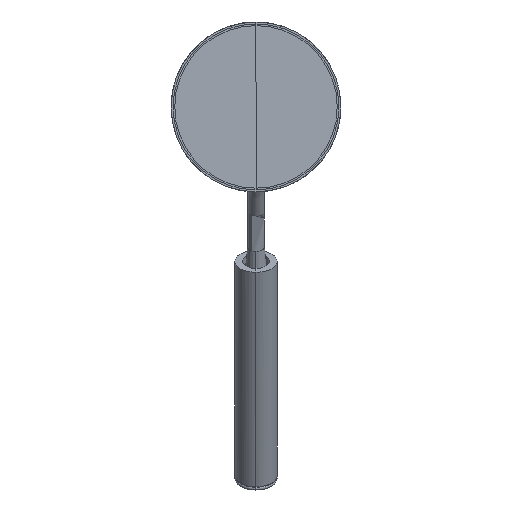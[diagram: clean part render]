
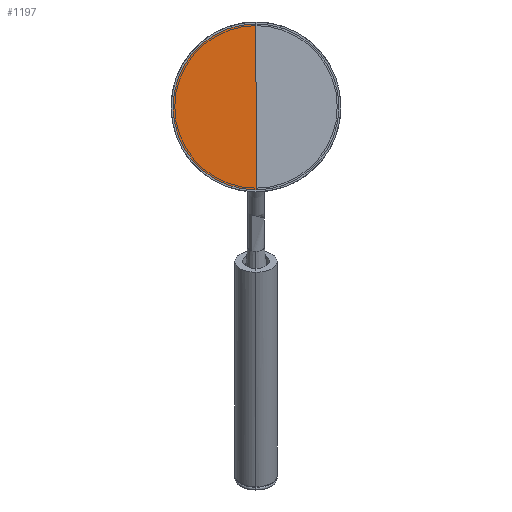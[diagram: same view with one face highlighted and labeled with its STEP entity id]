
A CAD part, front view. The second image highlights one B-rep face of the part: STEP entity #1197.
In plain terms, the highlighted planar face has unit normal (0, -1, 0) as drawn and (0, 0, -1) by its records, which use the part's own axes.
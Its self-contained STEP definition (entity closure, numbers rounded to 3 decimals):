
#113=FACE_OUTER_BOUND('',#210,.T.);
#210=EDGE_LOOP('',(#799,#800));
#307=LINE('',#1907,#380);
#380=VECTOR('',#1486,304.8);
#453=CIRCLE('',#1306,48.87);
#530=VERTEX_POINT('',#1904);
#531=VERTEX_POINT('',#1905);
#623=EDGE_CURVE('',#530,#531,#453,.T.);
#624=EDGE_CURVE('',#531,#530,#307,.T.);
#799=ORIENTED_EDGE('',*,*,#623,.F.);
#800=ORIENTED_EDGE('',*,*,#624,.F.);
#1151=PLANE('',#1305);
#1197=ADVANCED_FACE('',(#113),#1151,.F.);
#1305=AXIS2_PLACEMENT_3D('',#1903,#1482,#1483);
#1306=AXIS2_PLACEMENT_3D('',#1906,#1484,#1485);
#1482=DIRECTION('center_axis',(0.,0.,1.));
#1483=DIRECTION('ref_axis',(0.,1.,0.));
#1484=DIRECTION('center_axis',(0.,0.,1.));
#1485=DIRECTION('ref_axis',(0.,1.,0.));
#1486=DIRECTION('',(0.,-1.,0.));
#1903=CARTESIAN_POINT('Origin',(0.,0.,0.));
#1904=CARTESIAN_POINT('',(0.,-48.87,0.));
#1905=CARTESIAN_POINT('',(0.,48.87,0.));
#1906=CARTESIAN_POINT('Origin',(0.,0.,
0.));
#1907=CARTESIAN_POINT('',(0.,0.,0.));
